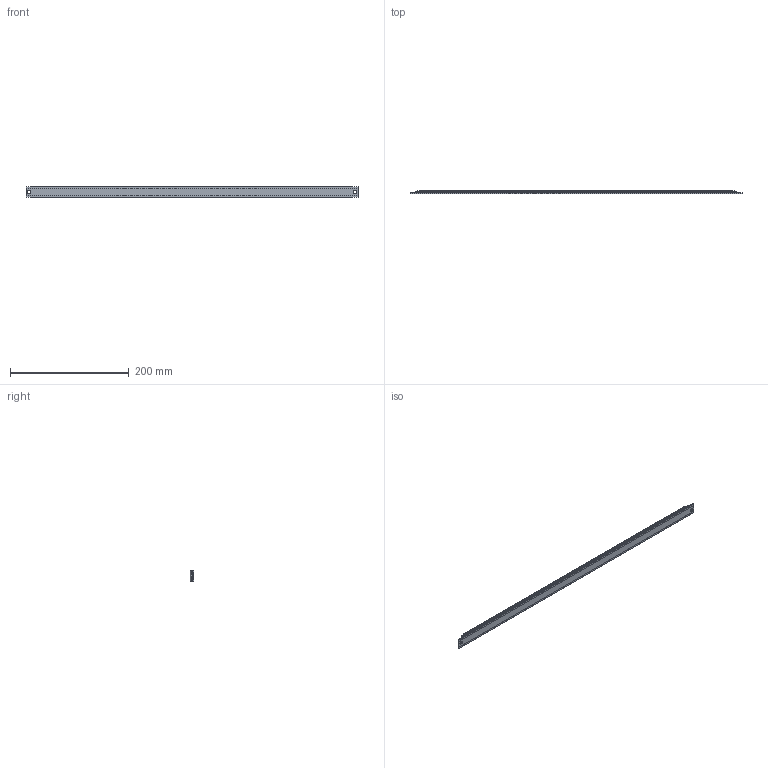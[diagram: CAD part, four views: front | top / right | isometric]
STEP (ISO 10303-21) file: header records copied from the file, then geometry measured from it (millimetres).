
FILE_DESCRIPTION (( 'STEP AP214' ), '1' );
FILE_NAME ('HLMScale.ScaleLength560.STEP', '2023-02-07T05:55:45', ( '' ), ( '' ), 'SwSTEP 2.0', 'SolidWorks 2020', '' );
FILE_SCHEMA (( 'AUTOMOTIVE_DESIGN' ));
Length unit declared in the file: millimetre
Products named in the file (1): HLMScale.ScaleLength560
Bounding box: 560 x 6.08 x 18 mm (x, y, z)
Volume: 55491.3 mm3; surface area: 30816.2 mm2
Topology: 1 solids, 1 shells, 56 faces, 149 edges, 98 vertices
Faces by surface type: plane 31, cylinder 25
Entity records: 1857 total; most frequent: CARTESIAN_POINT 412, ORIENTED_EDGE 298, DIRECTION 285, EDGE_CURVE 149, VECTOR 103, LINE 103, VERTEX_POINT 98, AXIS2_PLACEMENT_3D 91
